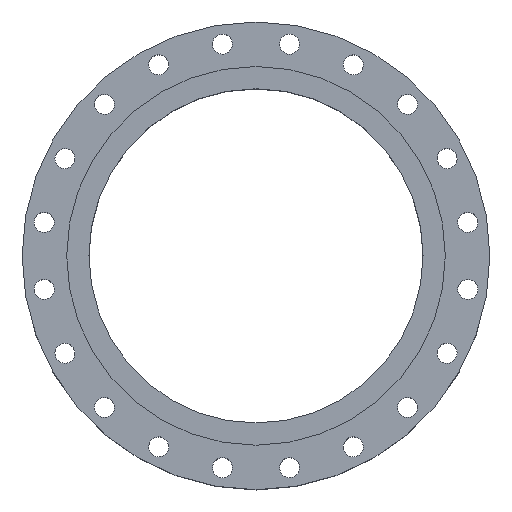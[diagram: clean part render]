
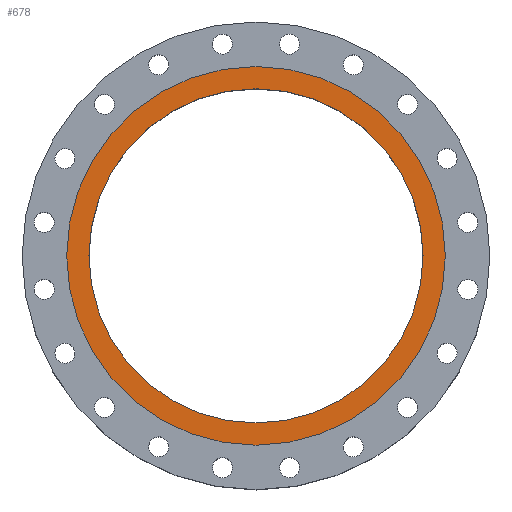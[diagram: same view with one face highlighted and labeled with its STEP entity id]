
A CAD part, top view. The second image highlights one B-rep face of the part: STEP entity #678.
In plain terms, the highlighted planar face has unit normal (0, 0, 1).
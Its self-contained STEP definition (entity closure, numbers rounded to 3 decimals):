
#678=ADVANCED_FACE('',(#1503,#1505),#1507,.T.);
#1503=FACE_BOUND('',#1504,.T.);
#1504=EDGE_LOOP('',(#1836));
#1505=FACE_BOUND('',#1506,.T.);
#1506=EDGE_LOOP('',(#1837));
#1507=PLANE('',#1508);
#1508=AXIS2_PLACEMENT_3D('',#1509,#1510,#1511);
#1509=CARTESIAN_POINT('',(0.,0.,132.5));
#1510=DIRECTION('',(0.,0.,1.));
#1511=DIRECTION('',(0.,1.,0.));
#1836=ORIENTED_EDGE('',*,*,#1984,.F.);
#1837=ORIENTED_EDGE('',*,*,#1986,.T.);
#1984=EDGE_CURVE('',#2246,#2246,#2247,.T.);
#1986=EDGE_CURVE('',#2250,#2250,#2251,.T.);
#2246=VERTEX_POINT('',#3787);
#2247=CIRCLE('',#3788,340.);
#2250=VERTEX_POINT('',#3797);
#2251=CIRCLE('',#3798,300.);
#3787=CARTESIAN_POINT('',(0.,340.,132.5));
#3788=AXIS2_PLACEMENT_3D('',#3789,#3790,#3791);
#3789=CARTESIAN_POINT('',(0.,0.,132.5));
#3790=DIRECTION('',(0.,0.,-1.));
#3791=DIRECTION('',(0.,1.,0.));
#3797=CARTESIAN_POINT('',(0.,300.,132.5));
#3798=AXIS2_PLACEMENT_3D('',#3799,#3800,#3801);
#3799=CARTESIAN_POINT('',(0.,0.,132.5));
#3800=DIRECTION('',(0.,0.,-1.));
#3801=DIRECTION('',(0.,1.,0.));
